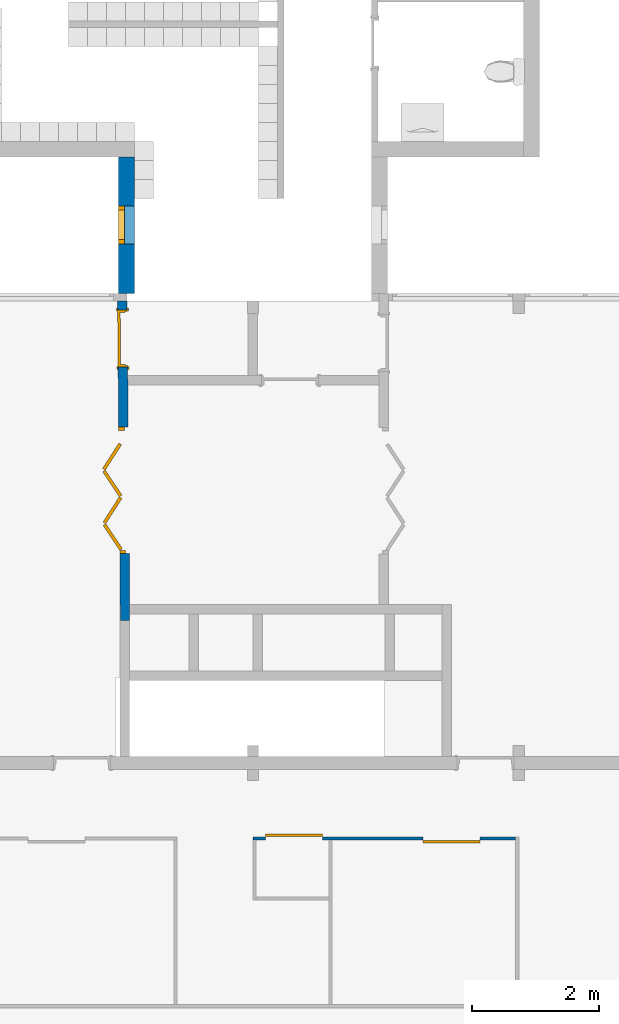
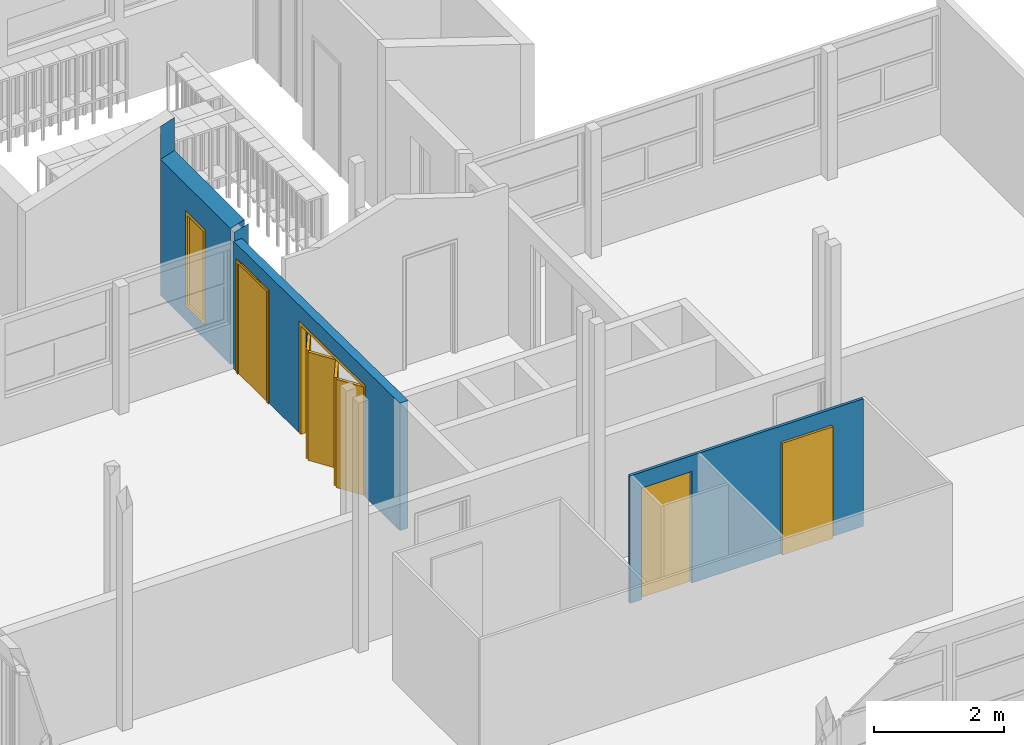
# One storey, part 25 of 48: 4 doors, 3 walls, 1 window, 5 openings.
"""IFC2X3 building model written with IfcOpenShell, lengths in millimetres."""

from ifc_helpers import new_model, entity, si_unit, converted_unit, derived_unit, money_unit, direction, frame, origin_with_axes, place, context, subcontext, project, spatial, open_shell, faceted_brep, surface_model, source, transform, mapped, material, type_object, element, fill, save


model = new_model("IFC2X3")

# Units and contexts
model_context = context("Model", 3, precision=0.01, world=origin_with_axes(), true_north=direction((0.0, 1.0)))
body_context = subcontext(model_context, "Body", "Model", "MODEL_VIEW")
ifc_project = project(units=[si_unit("LENGTHUNIT", "METRE", prefix="MILLI"), si_unit("AREAUNIT", "SQUARE_METRE"), si_unit("VOLUMEUNIT", "CUBIC_METRE"), converted_unit("PLANEANGLEUNIT", "DEGREE", entity("IfcPlaneAngleMeasure", 0.0174532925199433), si_unit("PLANEANGLEUNIT", "RADIAN"), dimensions=[0, 0, 0, 0, 0, 0, 0]), money_unit("USD"), converted_unit("TIMEUNIT", "Year", entity("IfcTimeMeasure", 31557600.0), si_unit("TIMEUNIT", "SECOND"), dimensions=[0, 0, 1, 0, 0, 0, 0]), si_unit("MASSUNIT", "GRAM", prefix="KILO"), si_unit("THERMODYNAMICTEMPERATUREUNIT", "DEGREE_CELSIUS"), si_unit("LUMINOUSINTENSITYUNIT", "LUMEN"), si_unit("ENERGYUNIT", "JOULE", prefix="MEGA"), derived_unit("THERMALCONDUCTANCEUNIT", [(si_unit("POWERUNIT", "WATT"), 1), (si_unit("LENGTHUNIT", "METRE"), -1), (si_unit("THERMODYNAMICTEMPERATUREUNIT", "KELVIN"), -1)]), derived_unit("SPECIFICHEATCAPACITYUNIT", [(si_unit("ENERGYUNIT", "JOULE"), 1), (si_unit("MASSUNIT", "GRAM", prefix="KILO"), -1), (si_unit("THERMODYNAMICTEMPERATUREUNIT", "KELVIN"), -1)]), derived_unit("MASSDENSITYUNIT", [(si_unit("MASSUNIT", "GRAM", prefix="KILO"), 1), (si_unit("VOLUMEUNIT", "CUBIC_METRE"), -1)])], contexts=[model_context])

# Site, building, storey
site_placement = place(None, origin_with_axes())
site = spatial("IfcSite", under=ifc_project, at=site_placement, Name="Site", CompositionType="ELEMENT")
building_placement = place(site_placement, origin_with_axes())
building = spatial("IfcBuilding", under=site, at=building_placement, Name="Building", CompositionType="ELEMENT")
storey_placement = place(building_placement, frame((0.0, 0.0, 3300.0), z_axis=(0.0, 0.0, 1.0), x_axis=(1.0, 0.0, 0.0)))
storey = spatial("IfcBuildingStorey", under=building, at=storey_placement, Name="1 ETG", CompositionType="ELEMENT", Elevation=3300.0)

# Wall, openings, doors
ifc_material = material(Name="GENERIC - INTERNAL FILLER")
wall_type_1 = type_object("IfcWallType", Name="GENERIC - INTERNAL FILLER 150", PredefinedType="NOTDEFINED")
wall_1_placement = place(storey_placement, frame((59960.0, 21919.89616703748, 0.0), z_axis=(0.0, 0.0, 1.0), x_axis=(0.008841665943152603, -0.9999609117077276, 0.0)))
wall_1 = element("IfcWall", 1, at=wall_1_placement, inside=storey, type_object=wall_type_1, material=ifc_material, Name="SW - 001", context=body_context, shape_type="Brep", body=[
    faceted_brep([(266.6481245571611, 0.0, 2100.0), (266.6481245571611, 0.0, 0.0), (120.0046925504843, 0.0, 0.0), (120.0046925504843, 0.0, 2400.0), (4920.213513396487, 0.0, 2400.0), (4920.213513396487, 0.0, 0.0), (4113.289683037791, 0.0, 0.0), (4113.289683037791, 0.0, 2100.0), (2113.289683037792, 0.0, 2100.0), (2113.289683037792, 0.0, 0.0), (1166.64812455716, 0.0, 0.0), (1166.64812455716, 0.0, 2100.0), (266.6481245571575, -149.9999999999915, 2100.0), (266.6481245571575, -149.9999999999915, 0.0), (118.6781403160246, -149.9999999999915, 0.0), (118.6781403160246, -149.9999999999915, 2400.0), (5168.896984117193, -149.9999999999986, 2400.000000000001), (5170.203741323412, -2.210416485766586, 2400.000000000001), (5170.203741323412, -2.210416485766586, 0.0), (5168.896984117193, -149.9999999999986, 0.0), (4113.289683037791, -149.9999999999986, 0.0), (4113.289683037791, -149.9999999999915, 2100.0), (2113.289683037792, -149.9999999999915, 2100.0), (2113.289683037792, -149.9999999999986, 0.0), (1166.64812455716, -149.9999999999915, 0.0), (1166.64812455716, -149.9999999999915, 2100.0)], [[[0, 1, 2, 3, 4, 5, 6, 7, 8, 9, 10, 11]], [[1, 0, 12, 13]], [[1, 13, 14, 2]], [[3, 2, 14, 15]], [[16, 17, 4, 3, 15]], [[4, 17, 18, 5]], [[5, 18, 19, 20, 6]], [[6, 20, 21, 7]], [[7, 21, 22, 8]], [[8, 22, 23, 9]], [[24, 10, 9, 23]], [[11, 10, 24, 25]], [[0, 11, 25, 12]], [[25, 24, 23, 22, 21, 20, 19, 16, 15, 14, 13, 12]], [[17, 16, 19, 18]]]),
])
opening_1_placement = place(wall_1_placement, frame((3113.289683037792, 0.0, 0.0), z_axis=(0.0, 0.0, 1.0), x_axis=(1.0, 0.0, 0.0)))
opening_1 = element("IfcOpeningElement", 2, at=opening_1_placement, cuts=wall_1, Name="DOO - 002", context=body_context, shape_type="Brep", body=[
    faceted_brep([(1000.0, 44.50118380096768, 2100.0), (1000.0, 44.50118380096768, 0.0), (-1000.0, 44.50118380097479, 0.0), (-1000.0, 44.50118380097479, 2100.0), (1000.0, -194.5011838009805, 2100.0), (1000.0, -194.5011838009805, 0.0), (-1000.0, -194.5011838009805, 0.0), (-1000.0, -194.5011838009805, 2100.0)], [[[0, 1, 2, 3]], [[4, 5, 1, 0]], [[5, 6, 2, 1]], [[6, 7, 3, 2]], [[7, 4, 0, 3]], [[6, 5, 4, 7]]]),
])
opening_2_placement = place(wall_1_placement, frame((716.6481245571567, 0.0, 0.0), z_axis=(0.0, 0.0, 1.0), x_axis=(1.0, 0.0, 0.0)))
opening_2 = element("IfcOpeningElement", 3, at=opening_2_placement, cuts=wall_1, Name="DOO - 002", context=body_context, shape_type="Brep", body=[
    faceted_brep([(-449.9999999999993, -149.9999999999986, 2100.0), (450.0000000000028, -149.9999999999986, 2100.0), (450.0000000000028, 0.0, 2100.0), (-449.9999999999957, 0.0, 2100.0), (450.0000000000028, -149.9999999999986, 0.0), (-449.9999999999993, -149.9999999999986, 0.0), (-486.9999999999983, -149.9999999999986, 0.0), (-486.9999999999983, -149.9999999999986, 2137.0), (486.9999999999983, -149.9999999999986, 2137.0), (486.9999999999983, -149.9999999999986, 0.0), (450.0000000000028, 0.0, 0.0), (487.0000000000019, 0.0, 0.0), (487.0000000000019, 0.0, 2137.0), (-487.0000000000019, 0.0, 2137.0), (-487.0000000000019, 0.0, 0.0), (-449.9999999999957, 0.0, 0.0), (-449.9999999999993, -194.5011838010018, 0.0), (-487.0000000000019, -194.5011838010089, 0.0), (-487.0000000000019, -194.5011838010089, 2137.0), (486.9999999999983, -194.5011838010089, 2137.0), (486.9999999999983, -194.5011838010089, 0.0), (449.9999999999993, -194.5011838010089, 0.0), (-449.9999999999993, 44.50118380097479, 0.0), (450.0000000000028, 44.50118380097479, 0.0), (487.0000000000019, 44.50118380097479, 0.0), (487.0000000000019, 44.50118380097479, 2137.0), (-486.9999999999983, 44.50118380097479, 2137.0), (-486.9999999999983, 44.50118380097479, 0.0), (-449.9999999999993, -194.5011838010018, 2100.0), (449.9999999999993, -194.5011838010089, 2100.0)], [[[0, 1, 2, 3]], [[4, 1, 0, 5, 6, 7, 8, 9]], [[1, 4, 10, 2]], [[3, 2, 10, 11, 12, 13, 14, 15]], [[5, 0, 3, 15]], [[5, 16, 17, 6]], [[7, 6, 17, 18]], [[8, 7, 18, 19]], [[9, 8, 19, 20]], [[21, 4, 9, 20]], [[16, 5, 15, 22, 23, 10, 4, 21]], [[10, 23, 24, 11]], [[12, 11, 24, 25]], [[13, 12, 25, 26]], [[14, 13, 26, 27]], [[22, 15, 14, 27]], [[28, 29, 21, 20, 19, 18, 17, 16]], [[23, 22, 27, 26, 25, 24]], [[28, 16, 21, 29]]]),
])
door_style_1 = type_object("IfcDoorStyle", Name="Dør", ConstructionType="NOTDEFINED", OperationType="SINGLE_SWING_RIGHT", ParameterTakesPrecedence=False, Sizeable=False)
shared_shape_1 = source(origin_with_axes(), body_context, "Body", "Brep", [
    faceted_brep([(-450.0, -115.0, 0.0), (-425.0, -115.0, 0.0), (-425.0, -150.0, 0.0), (-450.0, -150.0, 0.0), (-450.0, -115.0000000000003, 2100.0), (-425.0, -115.0000000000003, 2075.0), (-425.0, -150.0000000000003, 2075.0), (-450.0, -150.0000000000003, 2100.0)], [[[0, 1, 2, 3]], [[0, 4, 5, 1]], [[1, 5, 6, 2]], [[3, 2, 6, 7]], [[4, 0, 3, 7]], [[5, 4, 7, 6]]]),
    faceted_brep([(450.0, -115.0000000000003, 2100.0), (425.0, -115.0000000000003, 2075.0), (425.0, -150.0000000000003, 2075.0), (450.0, -150.0000000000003, 2100.0), (450.0, -115.0, 0.0), (425.0, -115.0, 0.0), (425.0, -150.0, 0.0), (450.0, -150.0, 0.0)], [[[0, 1, 2, 3]], [[0, 4, 5, 1]], [[1, 5, 6, 2]], [[3, 2, 6, 7]], [[4, 0, 3, 7]], [[5, 4, 7, 6]]]),
    faceted_brep([(-425.0, -115.0000000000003, 2075.0), (425.0, -115.0000000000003, 2075.0), (425.0, -150.0000000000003, 2075.0), (-425.0, -150.0000000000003, 2075.0), (-450.0, -115.0000000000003, 2100.0), (450.0, -115.0000000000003, 2100.0), (450.0, -150.0000000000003, 2100.0), (-450.0, -150.0000000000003, 2100.0)], [[[0, 1, 2, 3]], [[0, 4, 5, 1]], [[1, 5, 6, 2]], [[3, 2, 6, 7]], [[4, 0, 3, 7]], [[5, 4, 7, 6]]]),
    faceted_brep([(-487.0, -169.0, 0.0), (-487.0, -150.0, 0.0), (-437.0, -150.0, 0.0), (-437.0, -169.0, 0.0), (-487.0, -169.0000000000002, 2137.0), (-487.0, -150.0000000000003, 2137.0), (-437.0, -150.0000000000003, 2087.0), (-437.0, -169.0000000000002, 2087.0)], [[[0, 1, 2, 3]], [[4, 5, 1, 0]], [[1, 5, 6, 2]], [[3, 2, 6, 7]], [[0, 3, 7, 4]], [[7, 6, 5, 4]]]),
    faceted_brep([(487.0, -169.0000000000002, 2137.0), (487.0, -150.0000000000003, 2137.0), (437.0, -150.0000000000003, 2087.0), (437.0, -169.0000000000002, 2087.0), (487.0, -169.0, 0.0), (487.0, -150.0, 0.0), (437.0, -150.0, 0.0), (437.0, -169.0, 0.0)], [[[0, 1, 2, 3]], [[4, 5, 1, 0]], [[1, 5, 6, 2]], [[3, 2, 6, 7]], [[0, 3, 7, 4]], [[7, 6, 5, 4]]]),
    faceted_brep([(-487.0, -169.0000000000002, 2137.0), (-487.0, -150.0000000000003, 2137.0), (-437.0, -150.0000000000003, 2087.0), (-437.0, -169.0000000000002, 2087.0), (487.0, -169.0000000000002, 2137.0), (487.0, -150.0000000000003, 2137.0), (437.0, -150.0000000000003, 2087.0), (437.0, -169.0000000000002, 2087.0)], [[[0, 1, 2, 3]], [[4, 5, 1, 0]], [[1, 5, 6, 2]], [[3, 2, 6, 7]], [[0, 3, 7, 4]], [[7, 6, 5, 4]]]),
    faceted_brep([(-487.0, 19.0, 0.0), (-437.0, 19.0, 0.0), (-437.0, 0.0, 0.0), (-487.0, 0.0, 0.0), (-487.0, 18.99999999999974, 2137.0), (-437.0, 18.99999999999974, 2087.0), (-437.0, 0.0, 2087.0), (-487.0, 0.0, 2137.0)], [[[0, 1, 2, 3]], [[0, 4, 5, 1]], [[1, 5, 6, 2]], [[3, 2, 6, 7]], [[4, 0, 3, 7]], [[5, 4, 7, 6]]]),
    faceted_brep([(487.0, 18.99999999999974, 2137.0), (437.0, 18.99999999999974, 2087.0), (437.0, 0.0, 2087.0), (487.0, 0.0, 2137.0), (487.0, 19.0, 0.0), (437.0, 19.0, 0.0), (437.0, 0.0, 0.0), (487.0, 0.0, 0.0)], [[[0, 1, 2, 3]], [[0, 4, 5, 1]], [[1, 5, 6, 2]], [[3, 2, 6, 7]], [[4, 0, 3, 7]], [[5, 4, 7, 6]]]),
    faceted_brep([(-487.0, 18.99999999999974, 2137.0), (-437.0, 18.99999999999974, 2087.0), (-437.0, 0.0, 2087.0), (-487.0, 0.0, 2137.0), (487.0, 18.99999999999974, 2137.0), (437.0, 18.99999999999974, 2087.0), (437.0, 0.0, 2087.0), (487.0, 0.0, 2137.0)], [[[0, 1, 2, 3]], [[0, 4, 5, 1]], [[1, 5, 6, 2]], [[3, 2, 6, 7]], [[4, 0, 3, 7]], [[5, 4, 7, 6]]]),
    faceted_brep([(-450.0, 0.0, 0.0), (-410.0000000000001, 0.0, 0.0), (-410.0000000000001, -115.0, 0.0), (-450.0, -115.0, 0.0), (-450.0, 0.0, 2060.0), (-410.0000000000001, 0.0, 2060.0), (-410.0000000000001, -115.0, 2060.0), (-450.0, -115.0, 2060.0)], [[[0, 1, 2, 3]], [[0, 4, 5, 1]], [[1, 5, 6, 2]], [[3, 2, 6, 7]], [[4, 0, 3, 7]], [[5, 4, 7, 6]]]),
    faceted_brep([(450.0, 0.0, 0.0), (450.0, 0.0, 2060.0), (450.0, -115.0, 2060.0), (450.0, -115.0, 0.0), (410.0000000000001, 0.0, 0.0), (410.0000000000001, 0.0, 2060.0), (410.0000000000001, -115.0, 2060.0), (410.0000000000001, -115.0, 0.0)], [[[0, 1, 2, 3]], [[0, 4, 5, 1]], [[1, 5, 6, 2]], [[3, 2, 6, 7]], [[4, 0, 3, 7]], [[5, 4, 7, 6]]]),
    faceted_brep([(-450.0, 0.0, 2100.0), (-450.0, 0.0, 2060.0), (-450.0, -115.0, 2060.0), (-450.0, -115.0, 2100.0), (450.0, 0.0, 2100.0), (450.0, 0.0, 2060.0), (410.0000000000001, 0.0, 2060.0), (-410.0000000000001, 0.0, 2060.0), (-410.0000000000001, -115.0, 2060.0), (410.0000000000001, -115.0, 2060.0), (450.0, -115.0, 2060.0), (450.0, -115.0, 2100.0)], [[[0, 1, 2, 3]], [[0, 4, 5, 6, 7, 1]], [[1, 7, 8, 2]], [[3, 2, 8, 9, 10, 11]], [[4, 0, 3, 11]], [[5, 4, 11, 10]], [[6, 5, 10, 9]], [[7, 6, 9, 8]]]),
    faceted_brep([(409.9999999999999, 0.0, 0.0), (409.9999999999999, -40.0, 0.0), (-410.0000000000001, -40.0, 0.0), (-410.0000000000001, 0.0, 0.0), (409.9999999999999, 0.0, 2060.0), (409.9999999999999, -40.00000000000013, 2060.0), (-410.0000000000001, -40.00000000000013, 2060.0), (-410.0000000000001, 0.0, 2060.0)], [[[0, 1, 2, 3]], [[4, 5, 1, 0]], [[1, 5, 6, 2]], [[3, 2, 6, 7]], [[0, 3, 7, 4]], [[7, 6, 5, 4]]]),
])
door_1_placement = place(opening_2_placement, frame((450.0000000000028, 0.0, 0.0), z_axis=(0.0, 0.0, 1.0), x_axis=(-1.0, 0.0, 0.0)))
door_1 = element("IfcDoor", 4, at=door_1_placement, inside=storey, type_object=door_style_1, Name="DOO - 002", ObjectType="DOOR", OverallHeight=2100.0, OverallWidth=900.0, context=body_context, shape_type="MappedRepresentation", body=[
    mapped(shared_shape_1, transform((450.0000000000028, 149.9999999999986, 0.0))),
])
fill(opening_2, door_1)
door_style_2 = type_object("IfcDoorStyle", Name="Foldedør multipanel", ConstructionType="NOTDEFINED", OperationType="FOLDING_TO_RIGHT", ParameterTakesPrecedence=False, Sizeable=False)
shared_shape_2 = source(origin_with_axes(), body_context, "Body", "Brep", [
    faceted_brep([(-1000.0, 0.0, 0.0), (-947.0, 0.0, 0.0), (-947.0, -92.0, 0.0), (-1000.0, -92.0, 0.0), (-1000.0, 0.0, 2037.0), (-947.0, 0.0, 2037.0), (-947.0, -92.0, 2037.0), (-1000.0, -92.0, 2037.0)], [[[0, 1, 2, 3]], [[0, 4, 5, 1]], [[1, 5, 6, 2]], [[3, 2, 6, 7]], [[4, 0, 3, 7]], [[5, 4, 7, 6]]]),
    faceted_brep([(1000.0, 0.0, 0.0), (1000.0, 0.0, 2037.0), (1000.0, -92.0, 2037.0), (1000.0, -92.0, 0.0), (947.0, 0.0, 0.0), (947.0, 0.0, 2037.0), (947.0, -92.0, 2037.0), (947.0, -92.0, 0.0)], [[[0, 1, 2, 3]], [[0, 4, 5, 1]], [[1, 5, 6, 2]], [[3, 2, 6, 7]], [[4, 0, 3, 7]], [[5, 4, 7, 6]]]),
    faceted_brep([(-1000.0, 0.0, 2100.0), (-1000.0, 0.0, 2037.0), (-1000.0, -92.0, 2037.0), (-1000.0, -92.0, 2100.0), (1000.0, 0.0, 2100.0), (1000.0, 0.0, 2037.0), (947.0, 0.0, 2037.0), (-947.0, 0.0, 2037.0), (-947.0, -92.0, 2037.0), (947.0, -92.0, 2037.0), (1000.0, -92.0, 2037.0), (1000.0, -92.0, 2100.0)], [[[0, 1, 2, 3]], [[0, 4, 5, 6, 7, 1]], [[1, 7, 8, 2]], [[3, 2, 8, 9, 10, 11]], [[4, 0, 3, 11]], [[5, 4, 11, 10]], [[6, 5, 10, 9]], [[7, 6, 9, 8]]]),
    faceted_brep([(-947.0, 0.0, 0.0), (-550.8947129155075, 259.427931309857, 0.0), (-523.5, 217.6005514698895, 0.0), (-919.6052870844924, -41.82737983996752, 0.0), (-946.9999999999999, 0.0, 2037.0), (-550.8947129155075, 259.4279313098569, 2037.0), (-523.4999999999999, 217.6005514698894, 2037.0), (-919.6052870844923, -41.82737983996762, 2037.0)], [[[0, 1, 2, 3]], [[0, 4, 5, 1]], [[1, 5, 6, 2]], [[3, 2, 6, 7]], [[4, 0, 3, 7]], [[5, 4, 7, 6]]]),
    faceted_brep([(-496.1052870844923, 259.427931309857, 0.0), (-99.99999999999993, 0.0, 0.0), (-127.3947129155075, -41.82737983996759, 0.0), (-523.4999999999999, 217.6005514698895, 0.0), (-496.1052870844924, 259.4279313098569, 2037.0), (-99.99999999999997, 0.0, 2037.0), (-127.3947129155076, -41.82737983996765, 2037.0), (-523.5, 217.6005514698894, 2037.0)], [[[0, 1, 2, 3]], [[0, 4, 5, 1]], [[1, 5, 6, 2]], [[3, 2, 6, 7]], [[4, 0, 3, 7]], [[5, 4, 7, 6]]]),
    faceted_brep([(-99.9999999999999, 0.0, 0.0), (296.1052870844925, 259.4279313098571, 0.0), (323.5000000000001, 217.6005514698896, 0.0), (-72.60528708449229, -41.82737983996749, 0.0), (-99.99999999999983, 0.0, 2037.0), (296.1052870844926, 259.427931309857, 2037.0), (323.5000000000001, 217.6005514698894, 2037.0), (-72.60528708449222, -41.82737983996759, 2037.0)], [[[0, 1, 2, 3]], [[0, 4, 5, 1]], [[1, 5, 6, 2]], [[3, 2, 6, 7]], [[4, 0, 3, 7]], [[5, 4, 7, 6]]]),
    faceted_brep([(350.8947129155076, 259.4279313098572, 0.0), (746.9999999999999, 0.0, 0.0), (719.6052870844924, -41.82737983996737, 0.0), (323.4999999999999, 217.6005514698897, 0.0), (350.8947129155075, 259.4279313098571, 2037.0), (746.9999999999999, 0.0, 2037.0), (719.6052870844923, -41.82737983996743, 2037.0), (323.4999999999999, 217.6005514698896, 2037.0)], [[[0, 1, 2, 3]], [[0, 4, 5, 1]], [[1, 5, 6, 2]], [[3, 2, 6, 7]], [[4, 0, 3, 7]], [[5, 4, 7, 6]]]),
])
door_2_placement = place(opening_1_placement, frame((1000.0, 0.0, 0.0), z_axis=(0.0, 0.0, 1.0), x_axis=(-1.0, 0.0, 0.0)))
door_2 = element("IfcDoor", 5, at=door_2_placement, inside=storey, type_object=door_style_2, Name="DOO - 002", ObjectType="DOOR", OverallHeight=2100.0, OverallWidth=2000.0, context=body_context, shape_type="MappedRepresentation", body=[
    mapped(shared_shape_2, transform((1000.0, 149.9999999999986, 0.0))),
])
fill(opening_1, door_2)

# Wall, opening, window
wall_type_2 = type_object("IfcWallType", Name="GENERIC - INTERNAL FILLER 250", PredefinedType="NOTDEFINED")
wall_2_placement = place(storey_placement, frame((59950.4607657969, 21799.87497638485, 0.0), z_axis=(0.0, 0.0, 1.0), x_axis=(0.0, 1.0, 0.0)))
wall_2 = element("IfcWall", 6, at=wall_2_placement, inside=storey, type_object=wall_type_2, material=ifc_material, Name="SW - 001", context=body_context, shape_type="Brep", body=[
    faceted_brep([(2269.964140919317, 125.0, 3179.957131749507), (2269.964140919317, 125.0, 0.0), (120.0214153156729, 125.0, 0.0), (120.0214153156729, 125.0, 2558.144358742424), (2269.950842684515, 125.0, 2558.144358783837), (2269.950842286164, 125.0, 3179.957131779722), (900.1040290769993, 125.0, 265.0187491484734), (1500.104029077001, 125.0, 265.0187491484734), (1500.104029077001, 125.0, 2065.018749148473), (900.1040290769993, 125.0, 2065.018749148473), (2269.964140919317, -125.0, 3261.187071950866), (2269.964140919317, -125.0, 0.0), (120.0209978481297, -125.0, 0.0), (120.0209978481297, -125.0, 2639.384315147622), (2269.950842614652, -125.0, 2639.384315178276), (2269.95084224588, -124.9999999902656, 3261.187071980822), (900.1040290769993, -124.9999999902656, 265.0187491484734), (1500.104029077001, -124.9999999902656, 265.0187491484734), (1500.104029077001, -124.9999999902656, 2065.018749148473), (900.1040290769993, -124.9999999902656, 2065.018749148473)], [[[0, 1, 2, 3, 4, 5], [6, 7, 8, 9]], [[0, 10, 11, 1]], [[1, 11, 12, 2]], [[13, 3, 2, 12]], [[13, 14, 4, 3]], [[4, 14, 15, 5]], [[15, 10, 0, 5]], [[16, 17, 7, 6]], [[17, 18, 8, 7]], [[18, 19, 9, 8]], [[19, 16, 6, 9]], [[12, 11, 10, 15, 14, 13], [16, 19, 18, 17]]]),
    faceted_brep([(0.02141531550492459, 125.0, 2558.144358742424), (0.02099784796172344, -125.0, 2639.384315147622), (0.02099784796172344, -125.0, 0.0), (0.02141531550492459, 125.0, 0.0), (0.0, 125.0, 2558.144358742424), (0.0, -125.0, 2639.384315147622), (0.0, -125.0, 0.0), (0.0, 125.0, 0.0)], [[[0, 1, 2, 3]], [[4, 5, 1, 0]], [[2, 1, 5, 6]], [[7, 3, 2, 6]], [[7, 4, 0, 3]], [[6, 5, 4, 7]]]),
])
opening_3_placement = place(wall_2_placement, frame((1200.104029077, 0.0, 265.0187491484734), z_axis=(0.0, 0.0, 1.0), x_axis=(1.0, 0.0, 0.0)))
opening_3 = element("IfcOpeningElement", 7, at=opening_3_placement, cuts=wall_2, Name="WD - 001", context=body_context, shape_type="Brep", body=[
    faceted_brep([(-300.0000000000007, -125.9999999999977, 1800.0), (-300.0000000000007, -125.9999999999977, 0.0), (300.0000000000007, -125.9999999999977, 0.0), (300.0000000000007, -125.9999999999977, 1800.0), (-300.0000000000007, 125.9999999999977, 1800.0), (-300.0000000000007, 125.9999999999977, 0.0), (300.0000000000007, 125.9999999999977, 0.0), (300.0000000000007, 125.9999999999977, 1800.0)], [[[0, 1, 2, 3]], [[4, 5, 1, 0]], [[5, 6, 2, 1]], [[6, 7, 3, 2]], [[7, 4, 0, 3]], [[6, 5, 4, 7]]]),
])
window_style = type_object("IfcWindowStyle", Name="Vindu", ConstructionType="NOTDEFINED", OperationType="SINGLE_PANEL", ParameterTakesPrecedence=False, Sizeable=False)
shared_shape_3 = source(origin_with_axes(), body_context, "Body", "SurfaceModel", [
    faceted_brep([(234.0, -92.00000000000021, 1734.0), (300.0, -92.00000000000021, 1734.0), (300.0, 0.0, 1734.0), (234.0, 0.0, 1734.0), (234.0, -92.0, 66.0), (300.0, -92.0, 66.0), (300.0, 0.0, 66.0), (234.0, 0.0, 66.0)], [[[0, 1, 2, 3]], [[0, 4, 5, 1]], [[1, 5, 6, 2]], [[3, 2, 6, 7]], [[4, 0, 3, 7]], [[5, 4, 7, 6]]]),
    faceted_brep([(-234.0, -92.0, 66.0), (-300.0, -92.0, 66.0), (-300.0, 0.0, 66.0), (-234.0, 0.0, 66.0), (-234.0, -92.00000000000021, 1734.0), (-300.0, -92.00000000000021, 1734.0), (-300.0, 0.0, 1734.0), (-234.0, 0.0, 1734.0)], [[[0, 1, 2, 3]], [[0, 4, 5, 1]], [[1, 5, 6, 2]], [[3, 2, 6, 7]], [[4, 0, 3, 7]], [[5, 4, 7, 6]]]),
    faceted_brep([(234.0, -92.0, 66.0), (300.0, -92.0, 66.0), (300.0, 0.0, 66.0), (234.0, 0.0, 66.0), (-234.0, -92.0, 66.0), (-300.0, -92.0, 66.0), (-300.0, -92.0, 0.0), (300.0, -92.0, 0.0), (300.0, 0.0, 0.0), (-300.0, 0.0, 0.0), (-300.0, 0.0, 66.0), (-234.0, 0.0, 66.0)], [[[0, 1, 2, 3]], [[0, 4, 5, 6, 7, 1]], [[1, 7, 8, 2]], [[3, 2, 8, 9, 10, 11]], [[4, 0, 3, 11]], [[5, 4, 11, 10]], [[6, 5, 10, 9]], [[7, 6, 9, 8]]]),
    faceted_brep([(-234.0, -92.00000000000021, 1734.0), (-300.0, -92.00000000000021, 1734.0), (-300.0, 0.0, 1734.0), (-234.0, 0.0, 1734.0), (234.0, -92.00000000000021, 1734.0), (300.0, -92.00000000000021, 1734.0), (300.0, -92.00000000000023, 1800.0), (-300.0, -92.00000000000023, 1800.0), (-300.0, 0.0, 1800.0), (300.0, 0.0, 1800.0), (300.0, 0.0, 1734.0), (234.0, 0.0, 1734.0)], [[[0, 1, 2, 3]], [[0, 4, 5, 6, 7, 1]], [[1, 7, 8, 2]], [[3, 2, 8, 9, 10, 11]], [[4, 0, 3, 11]], [[5, 4, 11, 10]], [[6, 5, 10, 9]], [[7, 6, 9, 8]]]),
    surface_model("IfcShellBasedSurfaceModel", [(234.0, -56.0, 66.0), (234.0, -56.0000000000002, 1734.0), (-234.0, -56.0000000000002, 1734.0), (-234.0, -56.0, 66.0)], [open_shell([[[0, 1, 2, 3]]])]),
    surface_model("IfcShellBasedSurfaceModel", [(234.0, -36.00000000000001, 66.0), (-234.0, -36.00000000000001, 66.0), (-234.0, -36.00000000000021, 1734.0), (234.0, -36.00000000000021, 1734.0)], [open_shell([[[0, 1, 2, 3]]])]),
])
window_placement = place(opening_3_placement, frame((-300.0000000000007, 0.0, 0.0), z_axis=(0.0, 0.0, 1.0), x_axis=(1.0, 0.0, 0.0)))
window = element("IfcWindow", 8, at=window_placement, inside=storey, type_object=window_style, Name="WD - 001", ObjectType="WINDOW", OverallHeight=1800.0, OverallWidth=600.0, context=body_context, shape_type="MappedRepresentation", body=[
    mapped(shared_shape_3, transform((300.0000000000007, 125.0, 0.0))),
])
fill(opening_3, window)

# Wall, openings, doors
wall_type_3 = type_object("IfcWallType", Name="GENERIC - INTERNAL FILLER 50", PredefinedType="NOTDEFINED")
wall_3_placement = place(storey_placement, frame((66150.0, 13333.66421670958, 0.0), z_axis=(0.0, 0.0, 1.0), x_axis=(-1.0, 0.0, 0.0)))
wall_3 = element("IfcWall", 9, at=wall_3_placement, inside=storey, type_object=wall_type_3, material=ifc_material, Name="SW - 001", context=body_context, shape_type="Brep", body=[
    faceted_brep([(1517.305431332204, 0.0, 2100.0), (1517.305431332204, 0.0, 0.0), (3100.719152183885, 0.0, 0.0), (3100.719152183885, 0.0, 2100.0), (4000.71915218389, 0.0, 2100.0), (4000.71915218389, 0.0, 0.0), (4200.00000000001, 0.0, 0.0), (4200.00000000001, 0.0, 2400.0), (49.99999999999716, 0.0, 2400.0), (49.99999999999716, 0.0, 0.0), (617.3054313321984, 0.0, 0.0), (617.3054313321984, 0.0, 2100.0), (1517.305431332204, 50.00000000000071, 2100.0), (1517.305431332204, 50.00000000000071, 0.0), (3100.719152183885, 49.99999999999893, 0.0), (3100.719152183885, 50.00000000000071, 2100.0), (4000.71915218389, 50.00000000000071, 2100.0), (4000.71915218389, 49.99999999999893, 0.0), (4200.00000000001, 49.99999999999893, 0.0), (4200.00000000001, 50.00000000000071, 2400.0), (49.99999999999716, 50.00000000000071, 2400.0), (49.99999999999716, 50.00000000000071, 0.0), (617.3054313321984, 50.00000000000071, 0.0), (617.3054313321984, 50.00000000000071, 2100.0)], [[[0, 1, 2, 3, 4, 5, 6, 7, 8, 9, 10, 11]], [[1, 0, 12, 13]], [[1, 13, 14, 2]], [[2, 14, 15, 3]], [[3, 15, 16, 4]], [[4, 16, 17, 5]], [[17, 18, 6, 5]], [[19, 7, 6, 18]], [[20, 8, 7, 19]], [[9, 8, 20, 21]], [[22, 10, 9, 21]], [[11, 10, 22, 23]], [[0, 11, 23, 12]], [[23, 22, 21, 20, 19, 18, 17, 16, 15, 14, 13, 12]]]),
])
opening_4_placement = place(wall_3_placement, frame((1067.305431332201, 0.0, 0.0), z_axis=(0.0, 0.0, 1.0), x_axis=(1.0, 0.0, 0.0)))
opening_4 = element("IfcOpeningElement", 10, at=opening_4_placement, cuts=wall_3, Name="DOO - 002", context=body_context, shape_type="Brep", body=[
    faceted_brep([(-450.0000000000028, -0.9999999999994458, 2100.0), (-450.0000000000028, -0.9999999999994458, 0.0), (450.0000000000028, -0.9999999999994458, 0.0), (450.0000000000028, -0.9999999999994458, 2100.0), (-450.0000000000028, 51.00000000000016, 2100.0), (-450.0000000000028, 51.00000000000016, 0.0), (450.0000000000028, 51.00000000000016, 0.0), (450.0000000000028, 51.00000000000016, 2100.0)], [[[0, 1, 2, 3]], [[4, 5, 1, 0]], [[5, 6, 2, 1]], [[6, 7, 3, 2]], [[7, 4, 0, 3]], [[6, 5, 4, 7]]]),
])
opening_5_placement = place(wall_3_placement, frame((3550.719152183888, 0.0, 0.0), z_axis=(0.0, 0.0, 1.0), x_axis=(1.0, 0.0, 0.0)))
opening_5 = element("IfcOpeningElement", 11, at=opening_5_placement, cuts=wall_3, Name="DOO - 002", context=body_context, shape_type="Brep", body=[
    faceted_brep([(450.0000000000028, 51.00000000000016, 2100.0), (450.0000000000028, 51.00000000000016, 0.0), (-450.0000000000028, 51.00000000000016, 0.0), (-450.0000000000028, 51.00000000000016, 2100.0), (450.0000000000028, -0.9999999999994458, 2100.0), (450.0000000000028, -0.9999999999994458, 0.0), (-450.0000000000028, -0.9999999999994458, 0.0), (-450.0000000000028, -0.9999999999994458, 2100.0)], [[[0, 1, 2, 3]], [[4, 5, 1, 0]], [[5, 6, 2, 1]], [[6, 7, 3, 2]], [[7, 4, 0, 3]], [[6, 5, 4, 7]]]),
])
door_style_3 = type_object("IfcDoorStyle", Name="Skyvedør utenpåliggende", ConstructionType="NOTDEFINED", OperationType="SLIDING_TO_RIGHT", ParameterTakesPrecedence=False, Sizeable=False)
shared_shape_4 = source(origin_with_axes(), body_context, "Body", "Brep", [
    faceted_brep([(450.0, 45.0, 0.0), (450.0, 4.999999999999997, 0.0), (-450.0, 4.999999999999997, 0.0), (-450.0, 45.0, 0.0), (450.0, 44.99999999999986, 2100.0), (450.0, 4.999999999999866, 2100.0), (-450.0, 4.999999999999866, 2100.0), (-450.0, 44.99999999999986, 2100.0)], [[[0, 1, 2, 3]], [[4, 5, 1, 0]], [[1, 5, 6, 2]], [[3, 2, 6, 7]], [[0, 3, 7, 4]], [[7, 6, 5, 4]]]),
])
door_3_placement = place(opening_5_placement, frame((450.0000000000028, 0.0, 0.0), z_axis=(0.0, 0.0, 1.0), x_axis=(-1.0, 0.0, 0.0)))
door_3 = element("IfcDoor", 12, at=door_3_placement, inside=storey, type_object=door_style_3, Name="DOO - 002", ObjectType="DOOR", OverallHeight=2100.0, OverallWidth=900.0, context=body_context, shape_type="MappedRepresentation", body=[
    mapped(shared_shape_4, transform((450.0000000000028, 0.0, 0.0))),
])
fill(opening_5, door_3)
door_4_placement = place(opening_4_placement, frame((-450.0000000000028, 0.0, 0.0), z_axis=(0.0, 0.0, 1.0), x_axis=(1.0, 0.0, 0.0)))
door_4 = element("IfcDoor", 13, at=door_4_placement, inside=storey, type_object=door_style_3, Name="DOO - 002", ObjectType="DOOR", OverallHeight=2100.0, OverallWidth=900.0, context=body_context, shape_type="MappedRepresentation", body=[
    mapped(shared_shape_4, transform((450.0000000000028, 50.00000000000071, 0.0))),
])
fill(opening_4, door_4)

save(model, "model.ifc")
